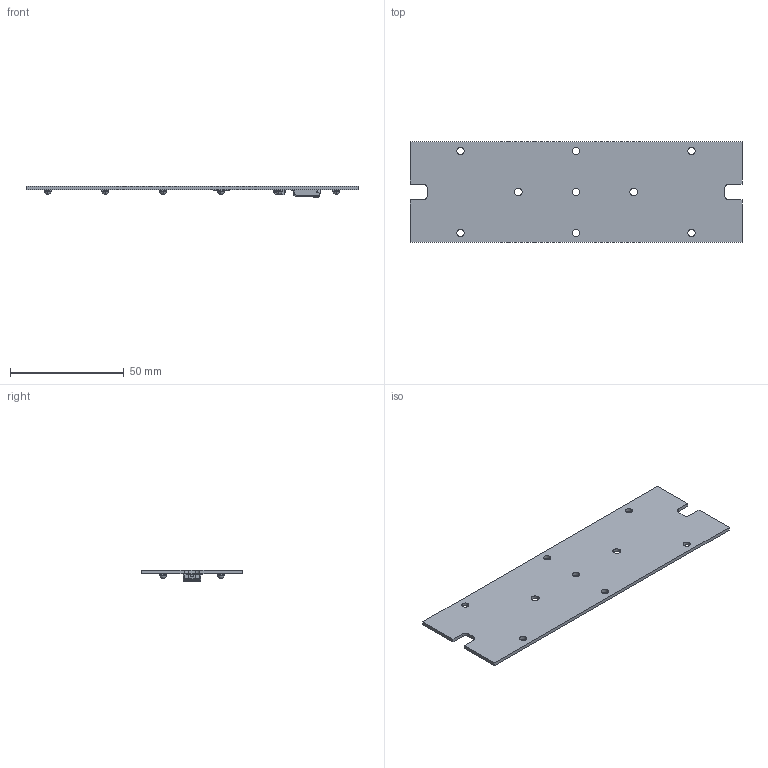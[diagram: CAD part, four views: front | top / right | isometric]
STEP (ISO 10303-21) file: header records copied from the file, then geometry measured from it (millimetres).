
FILE_DESCRIPTION((''),'2;1');
FILE_NAME('3D-MODEL_WU-M-688_ASM','2021-11-18T11:30:13',('msavic'),(''),'CREO PARAMETRIC BY PTC INC, 2016510','CREO PARAMETRIC BY PTC INC, 2016510','');
FILE_SCHEMA(('AUTOMOTIVE_DESIGN { 1 0 10303 214 1 1 1 1 }'));
Products named in the file (21): BAZA_WU-M-688_21; GERMANY__TXT0_1; VSO-LOGO-5MM_3_5_1_2_3; VSO-LOGO-5MM001_2_1_4_1_1_2; BUILT-IN_LED_MODULE-5MM004_2_6_; BUILT-IN_LED_MODULE-5MM003_2_5_; BUILT-IN_LED_MODULE-5MM002_2_4_; BUILT-IN_LED_MODULE-5MM001_2_5_; UKCA_9_1; UKCA_9_2; UKCA_9_3; UKCA_9_4; UKCA_9_ASM; CE-ZEICHEN-6MM_2_6_1_1; CE-ZEICHEN-6MM001_2_7_1_1; KONEKTOR_MCC-SMD-2P__2; SMA_DO-214AC_1; GW_CSSRM3_PM_20201209_GEOMETRY_; SKLOP_DIODE_KONE_LOGO_OTPORNIK__ASM; LOGO_ENEC13_1_1_1_1_1; 3D-MODEL_WU-M-688_ASM
Assembly tree (32 placements, depth 4):
  3D-MODEL_WU-M-688_ASM
    SKLOP_DIODE_KONE_LOGO_OTPORNIK__ASM
      BAZA_WU-M-688_21
      GERMANY__TXT0_1
      VSO-LOGO-5MM_3_5_1_2_3
      VSO-LOGO-5MM001_2_1_4_1_1_2
      BUILT-IN_LED_MODULE-5MM004_2_6_
      BUILT-IN_LED_MODULE-5MM003_2_5_
      BUILT-IN_LED_MODULE-5MM002_2_4_
      BUILT-IN_LED_MODULE-5MM001_2_5_  x2
      UKCA_9_ASM
        UKCA_9_1
        UKCA_9_2
        UKCA_9_3
        UKCA_9_4
      CE-ZEICHEN-6MM_2_6_1_1
      CE-ZEICHEN-6MM001_2_7_1_1
      KONEKTOR_MCC-SMD-2P__2
      SMA_DO-214AC_1
      GW_CSSRM3_PM_20201209_GEOMETRY_  x12
    LOGO_ENEC13_1_1_1_1_1
Bounding box: 146 x 44.4 x 4.9 mm (x, y, z)
Volume: 9616.4 mm3; surface area: 14317.6 mm2
Topology: 29 solids, 33 shells, 5117 faces, 14429 edges, 9546 vertices
Faces by surface type: plane 4359, cylinder 509, bspline 101, cone 52, torus 50, sphere 36, extrusion 10
Entity records: 184648 total; most frequent: CARTESIAN_POINT 31995, ORIENTED_EDGE 25646, DIRECTION 22268, EDGE_CURVE 12844, VECTOR 11635, LINE 11625, VERTEX_POINT 8523, AXIS2_PLACEMENT_3D 5286
